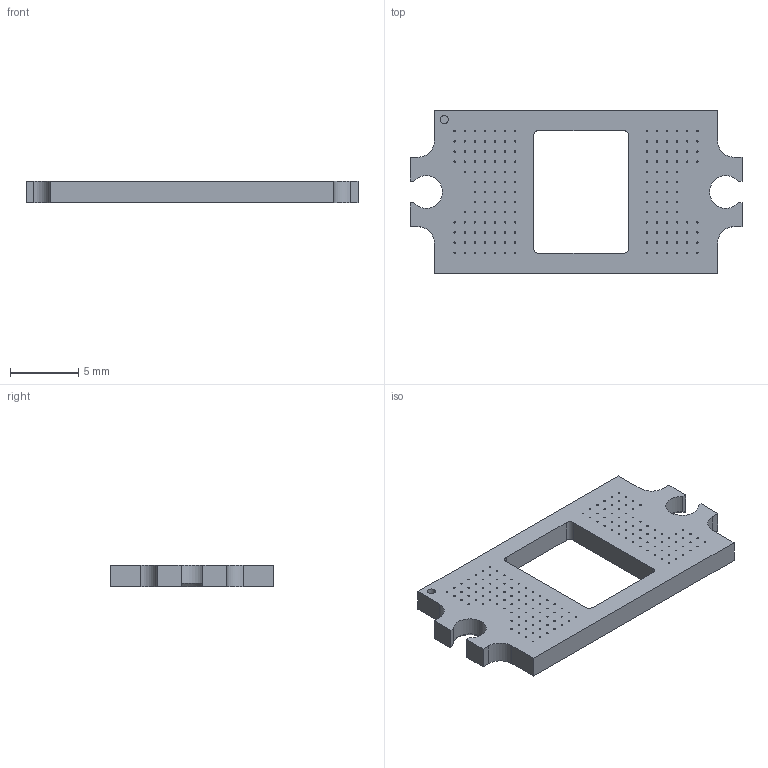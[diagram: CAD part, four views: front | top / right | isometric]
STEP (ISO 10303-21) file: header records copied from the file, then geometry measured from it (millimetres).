
FILE_DESCRIPTION (( 'STEP AP214' ), '1' );
FILE_NAME ('2518808.STEP', '2023-05-17T14:16:16', ( '' ), ( '' ), 'SwSTEP 2.0', 'SolidWorks 2021', '' );
FILE_SCHEMA (( 'AUTOMOTIVE_DESIGN' ));
Length unit declared in the file: millimetre
Products named in the file (1): 2518808
Bounding box: 24.36 x 12 x 1.6 mm (x, y, z)
Volume: 314.2 mm3; surface area: 580.6 mm2
Topology: 1 solids, 1 shells, 947 faces, 1925 edges, 1283 vertices
Faces by surface type: cylinder 617, plane 327, cone 3
Entity records: 25514 total; most frequent: DIRECTION 5050, CARTESIAN_POINT 4180, ORIENTED_EDGE 3850, AXIS2_PLACEMENT_3D 2185, EDGE_CURVE 1925, VERTEX_POINT 1283, EDGE_LOOP 1252, CIRCLE 1237
